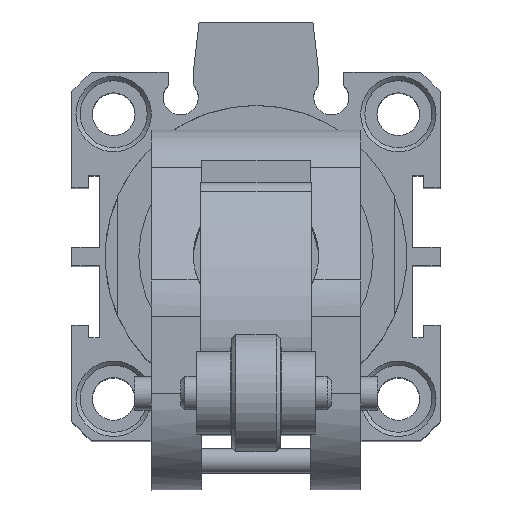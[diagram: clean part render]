
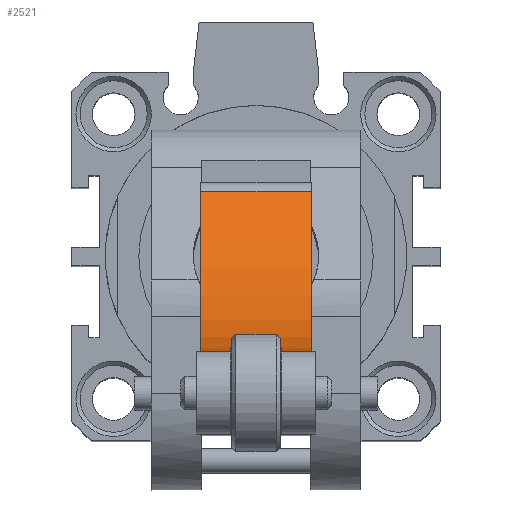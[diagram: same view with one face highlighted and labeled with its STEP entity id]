
A CAD part, top view. The second image highlights one B-rep face of the part: STEP entity #2521.
In plain terms, the highlighted cylindrical face has radius 38 mm (diameter 76 mm), a partial arc.
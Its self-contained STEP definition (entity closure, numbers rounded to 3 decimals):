
#287=CARTESIAN_POINT('',(-0.726,-11.62,163.756));
#288=VERTEX_POINT('',#287);
#297=CARTESIAN_POINT('',(-0.726,-11.145,157.762));
#298=VERTEX_POINT('',#297);
#299=CARTESIAN_POINT('',(-0.726,26.38,163.756));
#300=DIRECTION('',(-1.0,0.0,0.0));
#301=DIRECTION('',(0.0,1.0,0.0));
#302=AXIS2_PLACEMENT_3D('',#299,#300,#301);
#303=CIRCLE('',#302,38.);
#304=EDGE_CURVE('',#298,#288,#303,.T.);
#432=CARTESIAN_POINT('',(-6.726,-11.145,157.762));
#433=VERTEX_POINT('',#432);
#441=CARTESIAN_POINT('',(-6.726,-11.62,163.756));
#442=VERTEX_POINT('',#441);
#443=CARTESIAN_POINT('',(-6.726,26.38,163.756));
#444=DIRECTION('',(1.0,0.0,0.0));
#445=DIRECTION('',(0.0,1.0,0.0));
#446=AXIS2_PLACEMENT_3D('',#443,#444,#445);
#447=CIRCLE('',#446,38.);
#448=EDGE_CURVE('',#442,#433,#447,.T.);
#2273=CARTESIAN_POINT('',(2.874,7.57,130.738));
#2274=VERTEX_POINT('',#2273);
#2282=CARTESIAN_POINT('',(2.874,-11.62,163.756));
#2283=VERTEX_POINT('',#2282);
#2284=CARTESIAN_POINT('',(2.874,26.38,163.756));
#2285=DIRECTION('',(1.0,0.0,0.0));
#2286=DIRECTION('',(0.0,1.0,0.0));
#2287=AXIS2_PLACEMENT_3D('',#2284,#2285,#2286);
#2288=CIRCLE('',#2287,38.);
#2289=EDGE_CURVE('',#2283,#2274,#2288,.T.);
#2316=CARTESIAN_POINT('',(-10.326,-11.62,163.756));
#2317=VERTEX_POINT('',#2316);
#2324=CARTESIAN_POINT('',(-10.326,7.57,130.738));
#2325=VERTEX_POINT('',#2324);
#2326=CARTESIAN_POINT('',(-10.326,26.38,163.756));
#2327=DIRECTION('',(-1.0,0.0,0.0));
#2328=DIRECTION('',(0.0,1.0,0.0));
#2329=AXIS2_PLACEMENT_3D('',#2326,#2327,#2328);
#2330=CIRCLE('',#2329,38.);
#2331=EDGE_CURVE('',#2325,#2317,#2330,.T.);
#2482=CARTESIAN_POINT('',(-6.726,-11.145,157.762));
#2483=DIRECTION('',(1.0,0.0,0.0));
#2484=VECTOR('',#2483,6.0);
#2485=LINE('',#2482,#2484);
#2486=EDGE_CURVE('',#433,#298,#2485,.T.);
#2491=CARTESIAN_POINT('',(-3.726,26.38,163.756));
#2492=DIRECTION('',(1.0,0.,0.0));
#2493=DIRECTION('',(0.0,1.0,0.0));
#2494=AXIS2_PLACEMENT_3D('',#2491,#2492,#2493);
#2495=CYLINDRICAL_SURFACE('',#2494,38.);
#2496=ORIENTED_EDGE('',*,*,#448,.T.);
#2497=ORIENTED_EDGE('',*,*,#2486,.T.);
#2498=ORIENTED_EDGE('',*,*,#304,.T.);
#2499=CARTESIAN_POINT('',(-0.726,-11.62,163.756));
#2500=DIRECTION('',(1.0,0.0,0.0));
#2501=VECTOR('',#2500,3.6);
#2502=LINE('',#2499,#2501);
#2503=EDGE_CURVE('',#288,#2283,#2502,.T.);
#2504=ORIENTED_EDGE('',*,*,#2503,.T.);
#2505=ORIENTED_EDGE('',*,*,#2289,.T.);
#2506=CARTESIAN_POINT('',(-10.326,7.57,130.738));
#2507=DIRECTION('',(1.0,0.0,0.0));
#2508=VECTOR('',#2507,13.2);
#2509=LINE('',#2506,#2508);
#2510=EDGE_CURVE('',#2325,#2274,#2509,.T.);
#2511=ORIENTED_EDGE('',*,*,#2510,.F.);
#2512=ORIENTED_EDGE('',*,*,#2331,.T.);
#2513=CARTESIAN_POINT('',(-10.326,-11.62,163.756));
#2514=DIRECTION('',(1.0,0.0,0.0));
#2515=VECTOR('',#2514,3.6);
#2516=LINE('',#2513,#2515);
#2517=EDGE_CURVE('',#2317,#442,#2516,.T.);
#2518=ORIENTED_EDGE('',*,*,#2517,.T.);
#2519=EDGE_LOOP('',(#2496,#2497,#2498,#2504,#2505,#2511,#2512,#2518));
#2520=FACE_OUTER_BOUND('',#2519,.T.);
#2521=ADVANCED_FACE('',(#2520),#2495,.F.);
